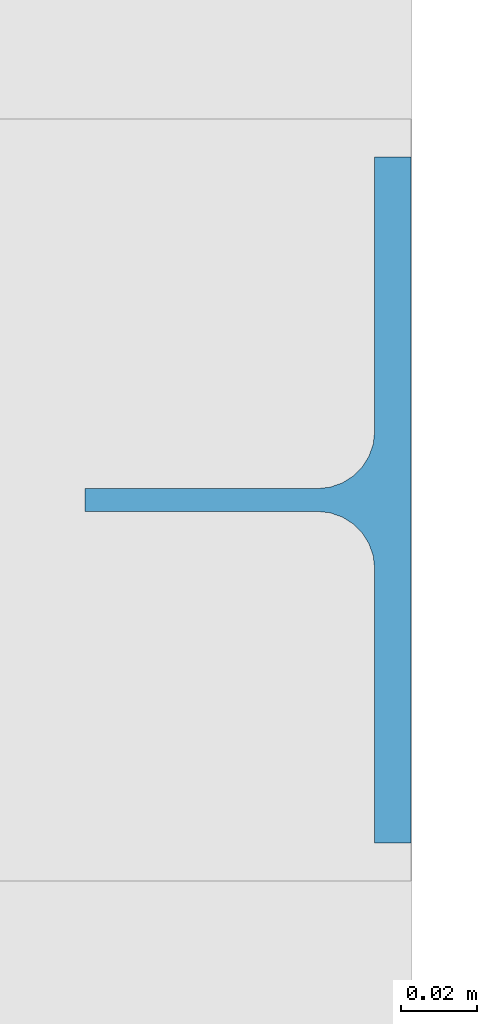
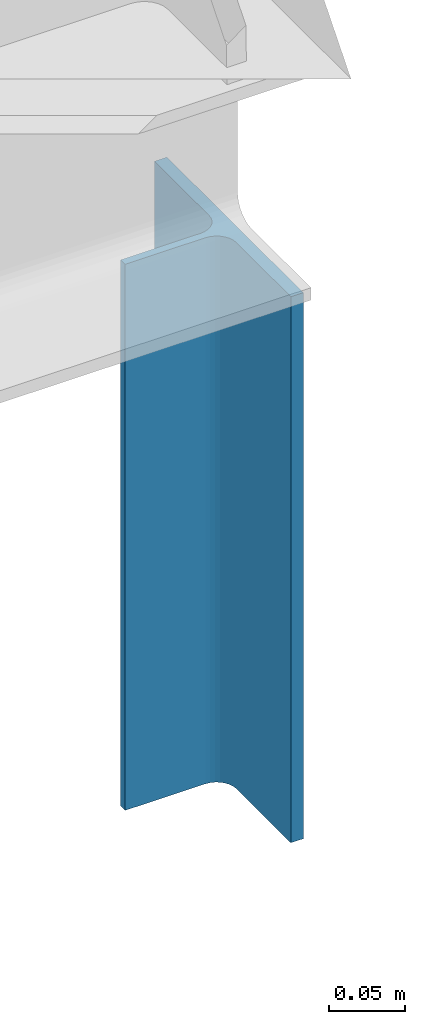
# One storey, part 6 of 29: 1 column.
"""IFC2X3 building model written with IfcOpenShell, lengths in millimetres."""

from ifc_helpers import new_model, entity, si_unit, converted_unit, derived_unit, direction, frame, frame_2d, origin, place, context, subcontext, project, spatial, polyline, circle_curve, parameter, trimmed, segment, composite_curve, outline, extrude, source, transform, mapped, material, type_object, type_shapes, element, save


model = new_model("IFC2X3")

# Units and contexts
model_context = context("Model", 3, precision=0.01, world=origin(), true_north=direction((6.12303176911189e-17, 1.0)))
body_context = subcontext(model_context, "Body", "Model", "MODEL_VIEW")
ifc_project = project(units=[si_unit("LENGTHUNIT", "METRE", prefix="MILLI"), si_unit("AREAUNIT", "SQUARE_METRE", prefix="MILLI"), si_unit("VOLUMEUNIT", "CUBIC_METRE"), converted_unit("PLANEANGLEUNIT", "DEGREE", entity("IfcRatioMeasure", 0.0174532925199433), si_unit("PLANEANGLEUNIT", "RADIAN"), dimensions=[0, 0, 0, 0, 0, 0, 0]), si_unit("MASSUNIT", "GRAM", prefix="KILO"), derived_unit("MASSDENSITYUNIT", [(si_unit("MASSUNIT", "GRAM", prefix="KILO"), 1), (si_unit("LENGTHUNIT", "METRE"), -3)]), derived_unit("MOMENTOFINERTIAUNIT", [(si_unit("LENGTHUNIT", "METRE"), 4)]), si_unit("TIMEUNIT", "SECOND"), si_unit("FREQUENCYUNIT", "HERTZ"), si_unit("THERMODYNAMICTEMPERATUREUNIT", "DEGREE_CELSIUS"), derived_unit("THERMALTRANSMITTANCEUNIT", [(si_unit("MASSUNIT", "GRAM", prefix="KILO"), 1), (si_unit("THERMODYNAMICTEMPERATUREUNIT", "KELVIN"), -1), (si_unit("TIMEUNIT", "SECOND"), -3)]), derived_unit("VOLUMETRICFLOWRATEUNIT", [(si_unit("LENGTHUNIT", "METRE"), 3), (si_unit("TIMEUNIT", "SECOND"), -1)]), si_unit("ELECTRICCURRENTUNIT", "AMPERE"), si_unit("ELECTRICVOLTAGEUNIT", "VOLT"), si_unit("POWERUNIT", "WATT"), si_unit("FORCEUNIT", "NEWTON", prefix="KILO"), si_unit("ILLUMINANCEUNIT", "LUX"), si_unit("LUMINOUSFLUXUNIT", "LUMEN"), si_unit("LUMINOUSINTENSITYUNIT", "CANDELA"), derived_unit("USERDEFINED", [(si_unit("MASSUNIT", "GRAM", prefix="KILO"), -1), (si_unit("LENGTHUNIT", "METRE"), -2), (si_unit("TIMEUNIT", "SECOND"), 3), (si_unit("LUMINOUSFLUXUNIT", "LUMEN"), 1)]), derived_unit("LINEARVELOCITYUNIT", [(si_unit("LENGTHUNIT", "METRE"), 1), (si_unit("TIMEUNIT", "SECOND"), -1)]), si_unit("PRESSUREUNIT", "PASCAL"), derived_unit("USERDEFINED", [(si_unit("LENGTHUNIT", "METRE"), -2), (si_unit("MASSUNIT", "GRAM", prefix="KILO"), 1), (si_unit("TIMEUNIT", "SECOND"), -2)]), derived_unit("LINEARFORCEUNIT", [(si_unit("MASSUNIT", "GRAM", prefix="KILO"), 1), (si_unit("LENGTHUNIT", "METRE"), 1), (si_unit("TIMEUNIT", "SECOND"), -2), (si_unit("LENGTHUNIT", "METRE"), -1)]), derived_unit("PLANARFORCEUNIT", [(si_unit("MASSUNIT", "GRAM", prefix="KILO"), 1), (si_unit("LENGTHUNIT", "METRE"), 1), (si_unit("TIMEUNIT", "SECOND"), -2), (si_unit("LENGTHUNIT", "METRE"), -2)])], contexts=[model_context])

# Site, building, storey
site_placement = place(None, origin())
site = spatial("IfcSite", under=ifc_project, at=site_placement, Name="Theater aan de Parade", CompositionType="ELEMENT")
building_placement = place(site_placement, origin())
building = spatial("IfcBuilding", under=site, at=building_placement, Name="Theater aan de Parade", CompositionType="ELEMENT")
storey_placement = place(building_placement, frame((0.0, 0.0, 20300.0)))
storey = spatial("IfcBuildingStorey", under=building, at=storey_placement, Name="05 vijfde verdieping", CompositionType="ELEMENT", Elevation=20300.0)

# Column
ifc_material = material(Name="00_PBT_MAT_staal_S355")
column_type = type_object("IfcColumnType", Name="28_PBT_SC_staal_H-profiel:S355_HE180A_1/2", PredefinedType="COLUMN", material=ifc_material)
shared_shape = source(origin(), body_context, "Body", "SweptSolid", [
    extrude(outline(composite_curve([segment(polyline([(-3.0, -59.6999999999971), (3.0, -59.6999999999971)]), True, "CONTINUOUS"), segment(polyline([(3.0, -59.6999999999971), (3.0, 1.30000000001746)]), True, "CONTINUOUS"), segment(trimmed(circle_curve(frame_2d((18.0, 1.30000000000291), x_axis=(-1.0, 0.0)), 14.9999999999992), [parameter(270.000000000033)], [parameter(0.0)], True, "PARAMETER"), False, "CONTINUOUS"), segment(polyline([(18.0, 16.2999999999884), (90.0, 16.2999999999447)]), True, "CONTINUOUS"), segment(polyline([(90.0, 16.2999999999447), (90.0, 25.7999999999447)]), True, "CONTINUOUS"), segment(polyline([(90.0, 25.7999999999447), (-90.0, 25.8000000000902)]), True, "CONTINUOUS"), segment(polyline([(-90.0, 25.8000000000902), (-90.0, 16.3000000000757)]), True, "CONTINUOUS"), segment(polyline([(-90.0, 16.3000000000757), (-18.0, 16.300000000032)]), True, "CONTINUOUS"), segment(trimmed(circle_curve(frame_2d((-18.0, 1.30000000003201), x_axis=(0.0, 1.0)), 14.9999999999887), [parameter(269.999999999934)], [parameter(0.0)], True, "PARAMETER"), False, "CONTINUOUS"), segment(polyline([(-3.0, 1.30000000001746), (-3.0, -59.6999999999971)]), True, "CONTINUOUS")], self_intersect=False)), frame((87029.1999999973, 47559.7383176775, 19600.0), z_axis=(0.0, 0.0, 1.0), x_axis=(0.0, -1.0, 0.0)), (0.0, 0.0, 1.0), 440.0),
])
type_shapes(column_type, [shared_shape])
column_placement = place(storey_placement, frame((0.0, 0.0, -20300.0)))
element("IfcColumn", 1, at=column_placement, inside=storey, type_object=column_type, material=ifc_material, Name="28_PBT_SC_staal_H-profiel:S355_HE180A_1/2", ObjectType="28_PBT_SC_staal_H-profiel:S355_HE180A_1/2", context=body_context, shape_type="MappedRepresentation", body=[
    mapped(shared_shape, transform((0.0, 0.0, 0.0), scale=1.0)),
])

save(model, "model.ifc")
